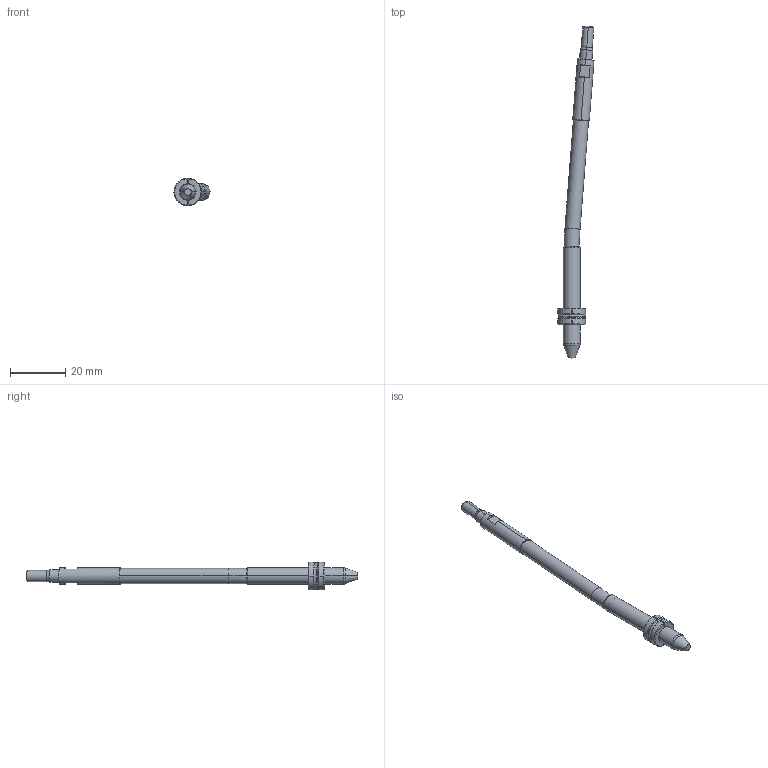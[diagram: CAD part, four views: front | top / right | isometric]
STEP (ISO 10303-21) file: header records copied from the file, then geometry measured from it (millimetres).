
FILE_DESCRIPTION (( 'STEP AP214' ), '1' );
FILE_NAME ('WP060030-EJE 4,5°.STEP', '2021-03-19T15:10:37', ( '' ), ( '' ), 'SwSTEP 2.0', 'SolidWorks 2019', '' );
FILE_SCHEMA (( 'AUTOMOTIVE_DESIGN' ));
Length unit declared in the file: millimetre
Products named in the file (6): WEB-008-JUNTA-JT7X1X9; WEB-001-9WP060030-1; WEB-007-9WP060030-F_WP060030-F-ON 4,5ø; WP060030-EJE 4,5°; WEB-006-9WP060030-6; WEB-002-9WP060030-2
Assembly tree (5 placements, depth 2):
  WP060030-EJE 4,5°
    WEB-001-9WP060030-1
    WEB-007-9WP060030-F_WP060030-F-ON 4,5ø
    WEB-002-9WP060030-2
    WEB-006-9WP060030-6
    WEB-008-JUNTA-JT7X1X9
Bounding box: 13.04 x 119.69 x 9.99 mm (x, y, z)
Volume: 3173.9 mm3; surface area: 2920.5 mm2
Topology: 6 solids, 6 shells, 112 faces, 262 edges, 164 vertices
Faces by surface type: cylinder 36, cone 28, plane 28, torus 20
Entity records: 3723 total; most frequent: CARTESIAN_POINT 714, DIRECTION 598, ORIENTED_EDGE 524, EDGE_CURVE 262, AXIS2_PLACEMENT_3D 256, VERTEX_POINT 164, CIRCLE 136, EDGE_LOOP 116
